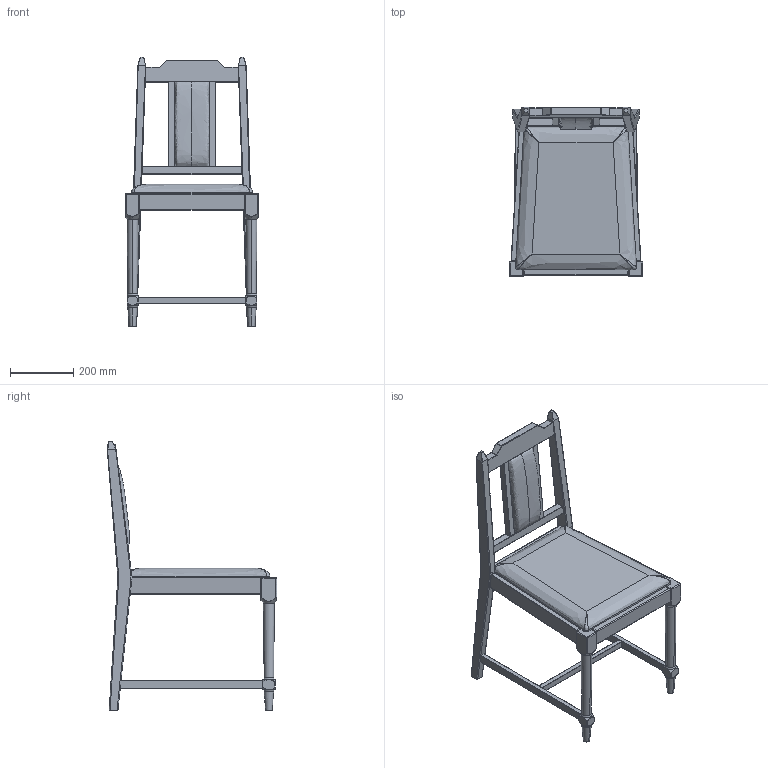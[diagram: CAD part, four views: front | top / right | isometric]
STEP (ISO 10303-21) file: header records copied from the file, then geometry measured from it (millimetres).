
FILE_DESCRIPTION(/* description */ (''),/* implementation_level */ '2;1');
FILE_NAME(/* name */ 'KFWKJ5~7',/* time_stamp */ '2020-06-22T18:40:53+09:00',/* author */ (''),/* organization */ (''),/* preprocessor_version */ 'ST-DEVELOPER v15',/* originating_system */ '',/* authorisation */ '');
FILE_SCHEMA (('AUTOMOTIVE_DESIGN'));
Length unit declared in the file: millimetre
Products named in the file (1): Document
Bounding box: 420 x 535.28 x 850.07 mm (x, y, z)
Volume: 3971637.5 mm3; surface area: 1259394.6 mm2
Topology: 13 solids, 19 shells, 488 faces, 1187 edges, 679 vertices
Faces by surface type: bspline 337, plane 151
Entity records: 26467 total; most frequent: CARTESIAN_POINT 19753, ORIENTED_EDGE 2258, EDGE_CURVE 1153, VERTEX_POINT 679, B_SPLINE_CURVE_WITH_KNOTS 619, ADVANCED_FACE 488, FACE_OUTER_BOUND 488, EDGE_LOOP 488
